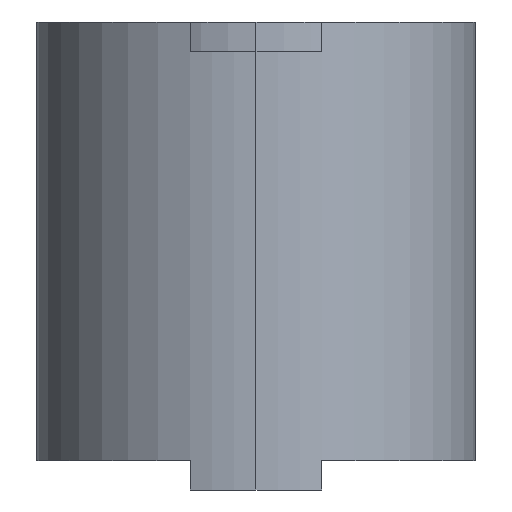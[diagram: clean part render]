
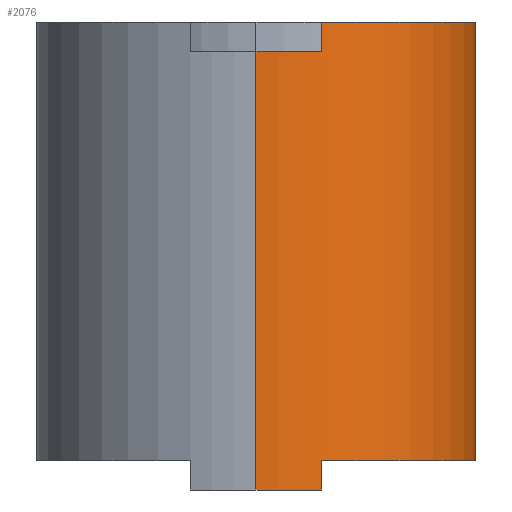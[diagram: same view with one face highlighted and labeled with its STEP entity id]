
A CAD part, left-side view. The second image highlights one B-rep face of the part: STEP entity #2076.
In plain terms, the highlighted cylindrical face has radius 15 mm (diameter 30 mm), a partial arc.
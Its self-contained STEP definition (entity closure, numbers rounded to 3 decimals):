
#16 = DIRECTION ( 'NONE',  ( 0., 0., -1. ) ) ;
#19 = DIRECTION ( 'NONE',  ( 0., 0., -1. ) ) ;
#28 = CARTESIAN_POINT ( 'NONE',  ( -26., 0., 30. ) ) ;
#61 = FACE_OUTER_BOUND ( 'NONE', #812, .T. ) ;
#185 = CARTESIAN_POINT ( 'NONE',  ( -41., 0., 28. ) ) ;
#191 = AXIS2_PLACEMENT_3D ( 'NONE', #2123, #16, #2334 ) ;
#197 = VECTOR ( 'NONE', #2348, 1000. ) ;
#204 = ORIENTED_EDGE ( 'NONE', *, *, #1166, .F. ) ;
#236 = DIRECTION ( 'NONE',  ( 0., 0., -1. ) ) ;
#242 = VECTOR ( 'NONE', #1158, 1000. ) ;
#248 = CARTESIAN_POINT ( 'NONE',  ( -40.309, -4.5, 28. ) ) ;
#300 = LINE ( 'NONE', #2606, #1079 ) ;
#328 = CARTESIAN_POINT ( 'NONE',  ( -40.309, -4.5, -2. ) ) ;
#373 = VERTEX_POINT ( 'NONE', #1361 ) ;
#404 = CYLINDRICAL_SURFACE ( 'NONE', #1652, 15. ) ;
#438 = DIRECTION ( 'NONE',  ( 1., 0., 0. ) ) ;
#451 = CIRCLE ( 'NONE', #2190, 15. ) ;
#476 = ORIENTED_EDGE ( 'NONE', *, *, #2738, .F. ) ;
#491 = ORIENTED_EDGE ( 'NONE', *, *, #520, .T. ) ;
#503 = VERTEX_POINT ( 'NONE', #681 ) ;
#506 = ORIENTED_EDGE ( 'NONE', *, *, #748, .F. ) ;
#520 = EDGE_CURVE ( 'NONE', #2302, #1358, #300, .T. ) ;
#525 = CIRCLE ( 'NONE', #191, 15. ) ;
#550 = EDGE_CURVE ( 'NONE', #373, #503, #2464, .T. ) ;
#561 = ORIENTED_EDGE ( 'NONE', *, *, #1110, .F. ) ;
#574 = AXIS2_PLACEMENT_3D ( 'NONE', #888, #2143, #438 ) ;
#602 = LINE ( 'NONE', #875, #197 ) ;
#656 = DIRECTION ( 'NONE',  ( -1., 0., 0. ) ) ;
#681 = CARTESIAN_POINT ( 'NONE',  ( -26., -15., 30. ) ) ;
#748 = EDGE_CURVE ( 'NONE', #503, #2592, #1248, .T. ) ;
#812 = EDGE_LOOP ( 'NONE', ( #561, #2396, #204, #491, #2633, #506, #1053, #476 ) ) ;
#875 = CARTESIAN_POINT ( 'NONE',  ( -41., 0., 30. ) ) ;
#881 = DIRECTION ( 'NONE',  ( 1., 0., 0. ) ) ;
#888 = CARTESIAN_POINT ( 'NONE',  ( -26., 0., 28. ) ) ;
#1053 = ORIENTED_EDGE ( 'NONE', *, *, #550, .F. ) ;
#1068 = CARTESIAN_POINT ( 'NONE',  ( -40.309, -4.5, 0. ) ) ;
#1079 = VECTOR ( 'NONE', #1542, 1000. ) ;
#1082 = AXIS2_PLACEMENT_3D ( 'NONE', #28, #1106, #1981 ) ;
#1106 = DIRECTION ( 'NONE',  ( 0., 0., 1. ) ) ;
#1108 = VERTEX_POINT ( 'NONE', #1494 ) ;
#1110 = EDGE_CURVE ( 'NONE', #1271, #1108, #2318, .T. ) ;
#1158 = DIRECTION ( 'NONE',  ( 0., 0., 1. ) ) ;
#1166 = EDGE_CURVE ( 'NONE', #2302, #1977, #525, .T. ) ;
#1248 = LINE ( 'NONE', #1527, #2624 ) ;
#1271 = VERTEX_POINT ( 'NONE', #185 ) ;
#1294 = CARTESIAN_POINT ( 'NONE',  ( -26., 0., 30. ) ) ;
#1328 = EDGE_CURVE ( 'NONE', #1358, #2592, #451, .T. ) ;
#1358 = VERTEX_POINT ( 'NONE', #1068 ) ;
#1361 = CARTESIAN_POINT ( 'NONE',  ( -40.309, -4.5, 30. ) ) ;
#1399 = LINE ( 'NONE', #248, #242 ) ;
#1479 = CARTESIAN_POINT ( 'NONE',  ( -41., 0., -2. ) ) ;
#1494 = CARTESIAN_POINT ( 'NONE',  ( -40.309, -4.5, 28. ) ) ;
#1527 = CARTESIAN_POINT ( 'NONE',  ( -26., -15., 30. ) ) ;
#1542 = DIRECTION ( 'NONE',  ( 0., 0., 1. ) ) ;
#1652 = AXIS2_PLACEMENT_3D ( 'NONE', #1294, #19, #656 ) ;
#1921 = CARTESIAN_POINT ( 'NONE',  ( -26., 0., 0. ) ) ;
#1977 = VERTEX_POINT ( 'NONE', #1479 ) ;
#1981 = DIRECTION ( 'NONE',  ( 1., 0., 0. ) ) ;
#2076 = ADVANCED_FACE ( 'NONE', ( #61 ), #404, .T. ) ;
#2119 = CARTESIAN_POINT ( 'NONE',  ( -26., -15., 0. ) ) ;
#2123 = CARTESIAN_POINT ( 'NONE',  ( -26., 0., -2. ) ) ;
#2143 = DIRECTION ( 'NONE',  ( 0., 0., 1. ) ) ;
#2145 = EDGE_CURVE ( 'NONE', #1271, #1977, #602, .T. ) ;
#2190 = AXIS2_PLACEMENT_3D ( 'NONE', #1921, #2756, #881 ) ;
#2302 = VERTEX_POINT ( 'NONE', #328 ) ;
#2318 = CIRCLE ( 'NONE', #574, 15. ) ;
#2334 = DIRECTION ( 'NONE',  ( 1., 0., 0. ) ) ;
#2348 = DIRECTION ( 'NONE',  ( 0., 0., -1. ) ) ;
#2396 = ORIENTED_EDGE ( 'NONE', *, *, #2145, .T. ) ;
#2464 = CIRCLE ( 'NONE', #1082, 15. ) ;
#2592 = VERTEX_POINT ( 'NONE', #2119 ) ;
#2606 = CARTESIAN_POINT ( 'NONE',  ( -40.309, -4.5, -2. ) ) ;
#2624 = VECTOR ( 'NONE', #236, 1000. ) ;
#2633 = ORIENTED_EDGE ( 'NONE', *, *, #1328, .T. ) ;
#2738 = EDGE_CURVE ( 'NONE', #1108, #373, #1399, .T. ) ;
#2756 = DIRECTION ( 'NONE',  ( 0., 0., 1. ) ) ;
